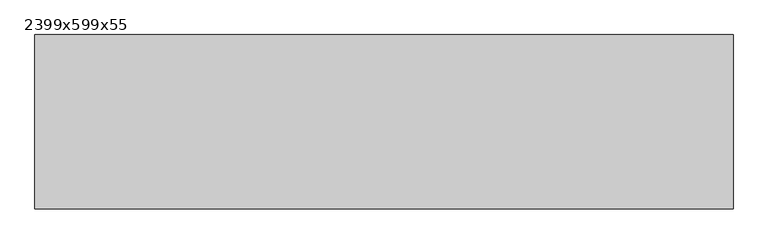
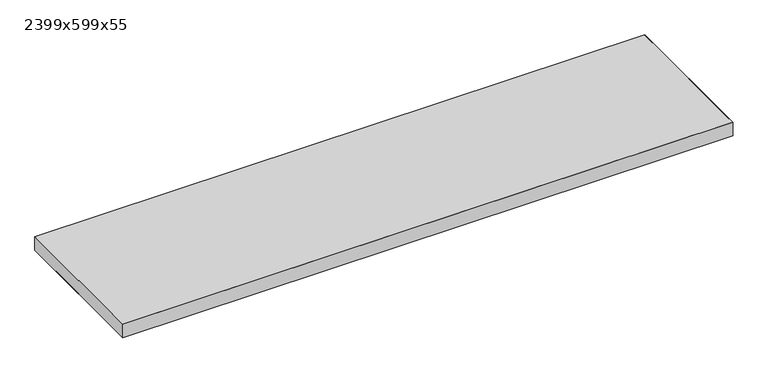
"""IFC4 building model written with IfcOpenShell, lengths in millimetres: proxy geometry, Texaa Panneaux Stereo fixés contre support par système magnétique séparés ou groupés au plafond : 2399x599x55."""

from ifc_helpers import new_model, si_unit, frame, origin, place, context, project, spatial, polyline, outline, extrude, faceted_brep, source, transform, mapped, element, save


def proxy_2399x599x55_f09d77e6(model_context):
    return source(origin(), model_context, "Body", "SolidModel", [
        extrude(outline(polyline([(-1198.5, -298.5), (-1198.5, 298.5), (1198.5, 298.5), (1198.5, -298.5), (-1198.5, -298.5)])), frame((0.0, 0.0, 11.0), z_axis=(0.0, 0.0, 1.0), x_axis=(1.0, 0.0, 0.0)), (0.0, 0.0, 1.0), 53.0),
        faceted_brep([(1199.5, 299.5, 65.0), (-1199.5, 299.5, 65.0), (-1199.5, -299.5, 65.0), (1199.5, -299.5, 65.0), (-1199.5, -299.5, 10.0), (-1199.5, 299.5, 10.0), (1199.5, 299.5, 10.0), (1199.5, -299.5, 10.0), (-1149.5, 249.5, 10.0), (-1149.5, -249.5, 10.0), (1149.5, -249.5, 10.0), (1149.5, 249.5, 10.0), (1149.5, 249.5, 11.0), (-1149.5, 249.5, 11.0), (1149.5, -249.5, 11.0), (-1149.5, -249.5, 11.0), (1198.5, -298.5, 64.0), (-1198.5, -298.5, 64.0), (-1198.5, 298.5, 64.0), (1198.5, 298.5, 64.0), (-1198.5, -298.5, 11.0), (1198.5, -298.5, 11.0), (1198.5, 298.5, 11.0), (-1198.5, 298.5, 11.0)], [[[0, 1, 2, 3]], [[4, 5, 6, 7], [8, 9, 10, 11]], [[4, 2, 1, 5]], [[5, 1, 0, 6]], [[3, 7, 6, 0]], [[2, 4, 7, 3]], [[8, 11, 12, 13]], [[11, 10, 14, 12]], [[10, 9, 15, 14]], [[13, 15, 9, 8]], [[16, 17, 18, 19]], [[20, 21, 22, 23], [12, 14, 15, 13]], [[23, 18, 17, 20]], [[22, 19, 18, 23]], [[19, 22, 21, 16]], [[20, 17, 16, 21]]]),
    ])


if __name__ == "__main__":
    model = new_model("IFC4")
    model_context = context("Model", 3, world=origin())
    ifc_project = project(units=[si_unit("LENGTHUNIT", "METRE", prefix="MILLI")], contexts=[model_context])
    site = spatial("IfcSite", under=ifc_project)
    building = spatial("IfcBuilding", under=site)
    placement = place(None, origin())
    proxy_2399x599x55_shape = proxy_2399x599x55_f09d77e6(model_context)
    element("IfcBuildingElementProxy", 1, Name="Texaa Panneaux Stereo fixés contre support par système magnétique séparés ou groupés au plafond : 2399x599x55", ObjectType="Texaa Panneaux Stereo fixés contre support par système magnétique séparés ou groupés au plafond : 2399x599x55", at=placement, inside=building, context=model_context, shape_type="MappedRepresentation", body=[
        mapped(proxy_2399x599x55_shape, transform((0.0, 0.0, 0.0), x_axis=(1.0, 0.0, 0.0), y_axis=(0.0, 1.0, 0.0), z_axis=(0.0, 0.0, 1.0))),
    ])
    save(model, "model.ifc")
